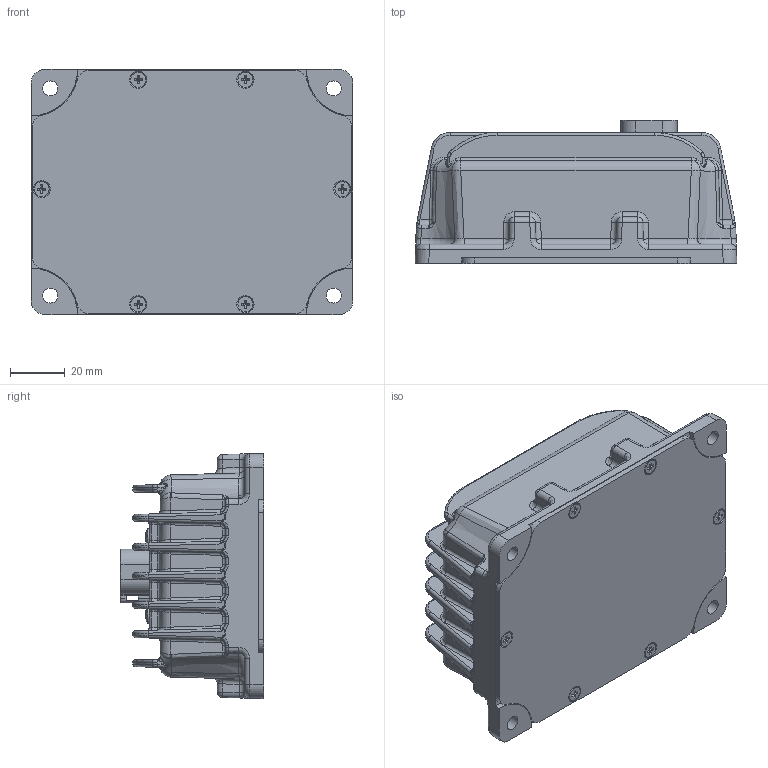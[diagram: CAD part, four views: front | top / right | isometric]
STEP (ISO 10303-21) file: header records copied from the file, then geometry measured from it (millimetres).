
FILE_DESCRIPTION (( 'STEP AP214' ), '1' );
FILE_NAME ('MG-24015-01.STEP', '2025-11-28T22:57:08', ( '' ), ( '' ), 'SwSTEP 2.0', 'SolidWorks 2023', '' );
FILE_SCHEMA (( 'AUTOMOTIVE_DESIGN' ));
Length unit declared in the file: millimetre
Products named in the file (8): GAS-24015-01; B18.3.1M - 3 x 0.5 x 8 Hex SHCS -- 8NHX_B18.3.1M - 3 x 0.5 x 8 Hex SHCS -- 8NHX; OVALCKTT 0.138-32-0.237-type II-T-0.406-N_OVALCKTT 0.138-32-0.237-type II-T-0.406-N; MG-24015-01; CST-24015-02-R1; B18.6.7M - M3 x 0.5 x 10 Type I Cross Recessed FHMS --10N_B18.6.7M - M3 x 0.5 x 10 Type I Cross Recessed FHMS --10N; c-dt15-4p-99-3d; CST-24015-01-R1
Assembly tree (15 placements, depth 2):
  MG-24015-01
    CST-24015-01-R1
    CST-24015-02-R1
    GAS-24015-01
    c-dt15-4p-99-3d
    B18.3.1M - 3 x 0.5 x 8 Hex SHCS -- 8NHX_B18.3.1M - 3 x 0.5 x 8 Hex SHCS -- 8NHX  x3
    OVALCKTT 0.138-32-0.237-type II-T-0.406-N_OVALCKTT 0.138-32-0.237-type II-T-0.406-N  x2
    B18.6.7M - M3 x 0.5 x 10 Type I Cross Recessed FHMS --10N_B18.6.7M - M3 x 0.5 x 10 Type I Cross Recessed FHMS --10N  x6
Bounding box: 118 x 52.66 x 90 mm (x, y, z)
Volume: 189118 mm3; surface area: 86549.4 mm2
Topology: 15 solids, 15 shells, 2475 faces, 6000 edges, 3647 vertices
Faces by surface type: plane 1105, cylinder 673, bspline 410, torus 161, sphere 66, cone 60
Full cylindrical faces by diameter (mm): 1.91 x9, 2.5 x9, 3 x9, 3.4 x6, 3.505 x2, 3.94 x2, 5.5 x13
Entity records: 84918 total; most frequent: CARTESIAN_POINT 31921, ORIENTED_EDGE 11094, DIRECTION 9857, EDGE_CURVE 5547, VERTEX_POINT 3427, AXIS2_PLACEMENT_3D 3357, VECTOR 3143, LINE 3143
